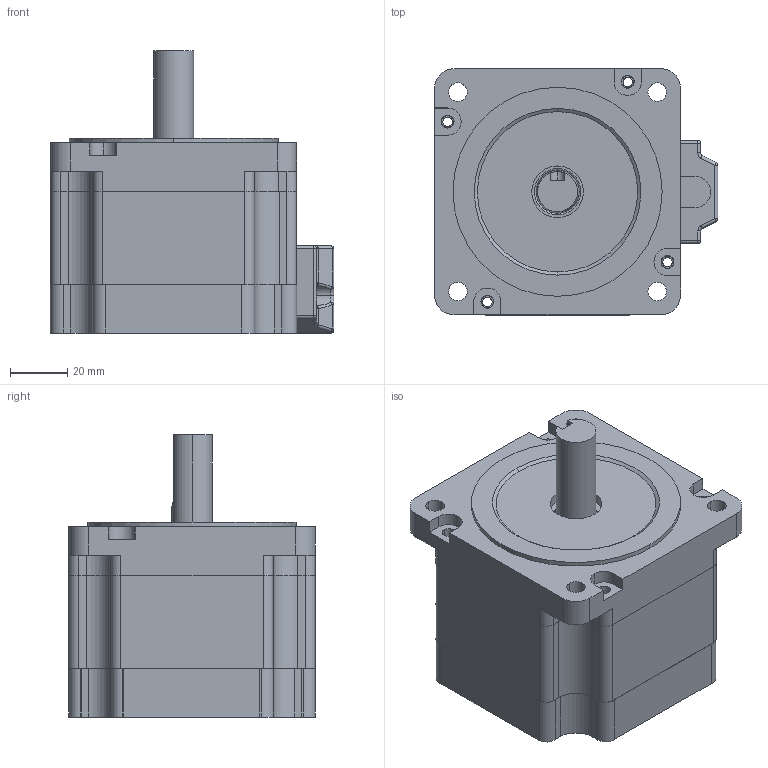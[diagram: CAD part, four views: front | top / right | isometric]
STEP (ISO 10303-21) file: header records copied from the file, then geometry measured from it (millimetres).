
FILE_DESCRIPTION (( 'STEP AP214' ), '1' );
FILE_NAME ('86CM35.STEP', '2024-12-17T05:24:02', ( 'MM' ), ( 'Microsoft' ), 'SwSTEP 2.0', 'SolidWorks 2020', '' );
FILE_SCHEMA (( 'AUTOMOTIVE_DESIGN' ));
Length unit declared in the file: millimetre
Products named in the file (9): 6202 粣創; 蛌赽郪璃; 86隅赽; 86CM35; 蛌粣; 86綴裔; 35-27-0.5 疏菜_35-27-0.5 疏菜; 86ヶ裔; 86揤盄輸  等謂 (2)
Assembly tree (9 placements, depth 3):
  86CM35
    86綴裔
    86隅赽
    86ヶ裔
    蛌赽郪璃
      蛌粣
      6202 粣創  x2
    35-27-0.5 疏菜_35-27-0.5 疏菜
    86揤盄輸  等謂 (2)
Bounding box: 98.99 x 85.99 x 98.5 mm (x, y, z)
Volume: 262938.7 mm3; surface area: 121591.5 mm2
Topology: 8 solids, 8 shells, 1095 faces, 3430 edges, 2195 vertices
Faces by surface type: cylinder 529, plane 308, sphere 126, torus 114, bspline 10, cone 8
Entity records: 33974 total; most frequent: CARTESIAN_POINT 6875, DIRECTION 5746, ORIENTED_EDGE 5632, EDGE_CURVE 2816, AXIS2_PLACEMENT_3D 2213, VERTEX_POINT 1850, VECTOR 1320, LINE 1320
